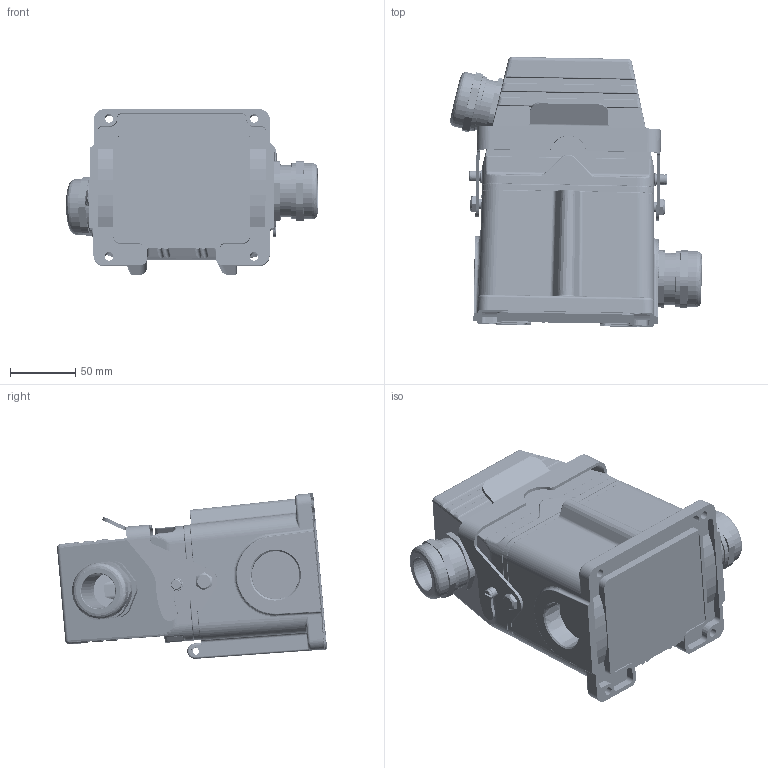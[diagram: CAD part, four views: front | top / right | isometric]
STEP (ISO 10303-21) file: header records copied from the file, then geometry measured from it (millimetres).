
FILE_DESCRIPTION (( 'STEP AP214' ), '1' );
FILE_NAME ('09048103232P HE、48针、表面底座、侧出M32套件、配塑料接头.STEP', '2024-05-06T07:41:47', ( 'L' ), ( '' ), 'SwSTEP 2.0', 'SolidWorks 2019', '' );
FILE_SCHEMA (( 'AUTOMOTIVE_DESIGN' ));
Length unit declared in the file: millimetre
Products named in the file (8): HE-024-MD（25-48）.step; H48B-TS-M32.step; 09048103232P HE、48针、表面底座、侧出M32套件、配塑料接头; H48B-SGR-M32.step; HE-024-FD（25-48）.step; HE-024-F.stp; FAS-32-P.step; HE-024-M.stp
Assembly tree (8 placements, depth 2):
  09048103232P HE、48针、表面底座、侧出M32套件、配塑料接头
    HE-024-M.stp
    HE-024-MD（25-48）.step
    HE-024-F.stp
    HE-024-FD（25-48）.step
    H48B-TS-M32.step
    FAS-32-P.step  x2
    H48B-SGR-M32.step
Bounding box: 192.8 x 206.57 x 126.64 mm (x, y, z)
Volume: 939981.5 mm3; surface area: 409964.5 mm2
Topology: 8 solids, 8 shells, 13814 faces, 37137 edges, 23408 vertices
Faces by surface type: plane 6527, bspline 3255, cylinder 2778, cone 916, torus 214, sphere 124
Entity records: 628485 total; most frequent: CARTESIAN_POINT 255023, ORIENTED_EDGE 73396, DIRECTION 55956, EDGE_CURVE 36698, VERTEX_POINT 23270, LINE 20692, VECTOR 20692, AXIS2_PLACEMENT_3D 17632
